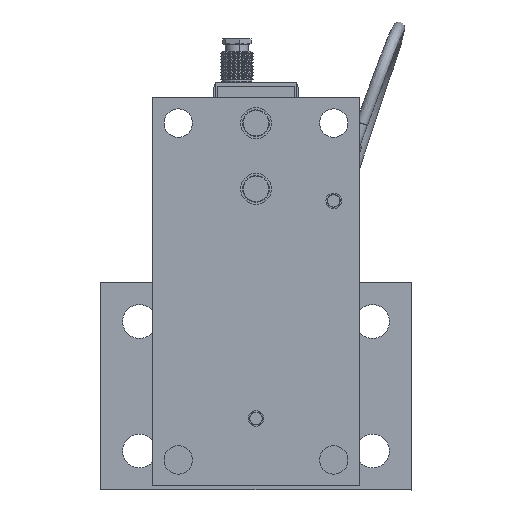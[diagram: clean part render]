
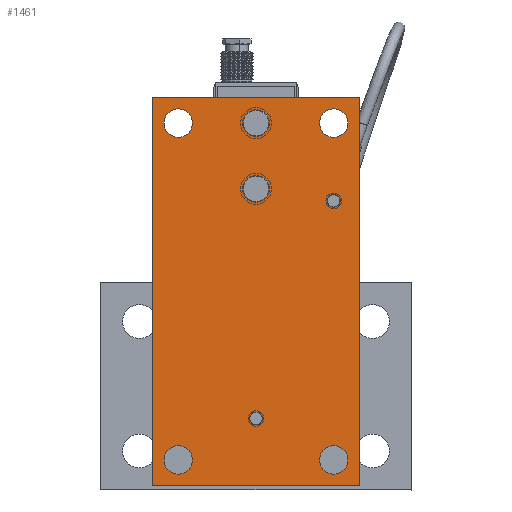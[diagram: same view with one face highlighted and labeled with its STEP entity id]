
A CAD part, front view. The second image highlights one B-rep face of the part: STEP entity #1461.
In plain terms, the highlighted planar face has unit normal (0, -1, 0) as drawn and (0, 0, -1) by its records, which use the part's own axes.
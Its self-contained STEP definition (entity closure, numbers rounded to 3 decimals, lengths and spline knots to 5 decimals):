
#1461=ADVANCED_FACE('0:3576',(#2551,#2552,#2553,#2554,#2555,#2556,#2557,#2558,#2559),#2560,.F.);
#2551=FACE_OUTER_BOUND('',#9432,.T.);
#2552=FACE_BOUND('',#9433,.T.);
#2553=FACE_BOUND('',#9434,.T.);
#2554=FACE_BOUND('',#9435,.T.);
#2555=FACE_BOUND('',#9436,.T.);
#2556=FACE_BOUND('',#9437,.T.);
#2557=FACE_BOUND('',#9438,.T.);
#2558=FACE_BOUND('',#9439,.T.);
#2559=FACE_BOUND('',#9440,.T.);
#2560=PLANE('',#9441);
#9432=EDGE_LOOP('',(#13151,#13152,#13153,#13154));
#9433=EDGE_LOOP('',(#13155,#13156));
#9434=EDGE_LOOP('',(#13157,#13158));
#9435=EDGE_LOOP('',(#13159,#13160));
#9436=EDGE_LOOP('',(#13161,#13162));
#9437=EDGE_LOOP('',(#13163,#13164));
#9438=EDGE_LOOP('',(#13165,#13166));
#9439=EDGE_LOOP('',(#13167,#13168));
#9440=EDGE_LOOP('',(#13169,#13170));
#9441=AXIS2_PLACEMENT_3D('',#13171,#13172,#13173);
#13151=ORIENTED_EDGE('',*,*,#14460,.T.);
#13152=ORIENTED_EDGE('',*,*,#14461,.T.);
#13153=ORIENTED_EDGE('',*,*,#14462,.T.);
#13154=ORIENTED_EDGE('',*,*,#14463,.T.);
#13155=ORIENTED_EDGE('',*,*,#14413,.T.);
#13156=ORIENTED_EDGE('',*,*,#14459,.T.);
#13157=ORIENTED_EDGE('',*,*,#14417,.T.);
#13158=ORIENTED_EDGE('',*,*,#14457,.T.);
#13159=ORIENTED_EDGE('',*,*,#14441,.T.);
#13160=ORIENTED_EDGE('',*,*,#14445,.T.);
#13161=ORIENTED_EDGE('',*,*,#14421,.T.);
#13162=ORIENTED_EDGE('',*,*,#14455,.T.);
#13163=ORIENTED_EDGE('',*,*,#14427,.F.);
#13164=ORIENTED_EDGE('',*,*,#14452,.F.);
#13165=ORIENTED_EDGE('',*,*,#14435,.F.);
#13166=ORIENTED_EDGE('',*,*,#14448,.F.);
#13167=ORIENTED_EDGE('',*,*,#14431,.F.);
#13168=ORIENTED_EDGE('',*,*,#14450,.F.);
#13169=ORIENTED_EDGE('',*,*,#14439,.F.);
#13170=ORIENTED_EDGE('',*,*,#14446,.F.);
#13171=CARTESIAN_POINT('',(0.0,0.0,0.0));
#13172=DIRECTION('',(0.0,0.0,1.0));
#13173=DIRECTION('',(1.0,0.0,0.0));
#14413=EDGE_CURVE('0:3638',#16313,#16310,#16314,.F.);
#14417=EDGE_CURVE('0:3632',#16321,#16318,#16322,.F.);
#14421=EDGE_CURVE('0:3626',#16329,#16326,#16330,.F.);
#14427=EDGE_CURVE('0:3620',#16339,#16335,#16341,.F.);
#14431=EDGE_CURVE('0:3614',#16347,#16343,#16349,.F.);
#14435=EDGE_CURVE('0:3608',#16355,#16351,#16357,.F.);
#14439=EDGE_CURVE('0:3602',#16363,#16359,#16365,.F.);
#14441=EDGE_CURVE('0:3596',#16369,#16366,#16370,.F.);
#14445=EDGE_CURVE('0:3596',#16366,#16369,#16375,.F.);
#14446=EDGE_CURVE('0:3602',#16359,#16363,#16376,.F.);
#14448=EDGE_CURVE('0:3608',#16351,#16355,#16378,.F.);
#14450=EDGE_CURVE('0:3614',#16343,#16347,#16380,.F.);
#14452=EDGE_CURVE('0:3620',#16335,#16339,#16382,.F.);
#14455=EDGE_CURVE('0:3626',#16326,#16329,#16385,.F.);
#14457=EDGE_CURVE('0:3632',#16318,#16321,#16387,.F.);
#14459=EDGE_CURVE('0:3638',#16310,#16313,#16389,.F.);
#14460=EDGE_CURVE('0:3641',#16390,#16391,#16392,.T.);
#14461=EDGE_CURVE('0:3644',#16391,#16393,#16394,.T.);
#14462=EDGE_CURVE('0:3647',#16393,#16395,#16396,.T.);
#14463=EDGE_CURVE('0:3650',#16395,#16390,#16397,.T.);
#16310=VERTEX_POINT('',#19930);
#16313=VERTEX_POINT('',#19934);
#16314=CIRCLE('',#19935,0.0051);
#16318=VERTEX_POINT('',#19940);
#16321=VERTEX_POINT('',#19944);
#16322=CIRCLE('',#19945,0.0051);
#16326=VERTEX_POINT('',#19950);
#16329=VERTEX_POINT('',#19954);
#16330=CIRCLE('',#19955,0.0025);
#16335=VERTEX_POINT('',#19961);
#16339=VERTEX_POINT('',#19966);
#16341=CIRCLE('',#19969,0.0055);
#16343=VERTEX_POINT('',#19971);
#16347=VERTEX_POINT('',#19976);
#16349=CIRCLE('',#19979,0.0055);
#16351=VERTEX_POINT('',#19981);
#16355=VERTEX_POINT('',#19986);
#16357=CIRCLE('',#19989,0.0055);
#16359=VERTEX_POINT('',#19991);
#16363=VERTEX_POINT('',#19996);
#16365=CIRCLE('',#19999,0.0055);
#16366=VERTEX_POINT('',#20000);
#16369=VERTEX_POINT('',#20004);
#16370=CIRCLE('',#20005,0.0025);
#16375=CIRCLE('',#20011,0.0025);
#16376=CIRCLE('',#20012,0.0055);
#16378=CIRCLE('',#20014,0.0055);
#16380=CIRCLE('',#20016,0.0055);
#16382=CIRCLE('',#20018,0.0055);
#16385=CIRCLE('',#20021,0.0025);
#16387=CIRCLE('',#20023,0.0051);
#16389=CIRCLE('',#20025,0.0051);
#16390=VERTEX_POINT('',#20026);
#16391=VERTEX_POINT('',#20027);
#16392=LINE('',#20028,#20029);
#16393=VERTEX_POINT('',#20030);
#16394=LINE('',#20031,#20032);
#16395=VERTEX_POINT('',#20033);
#16396=LINE('',#20034,#20035);
#16397=LINE('',#20036,#20037);
#19930=CARTESIAN_POINT('',(-0.0447,0.,0.0));
#19934=CARTESIAN_POINT('',(-0.0345,0.,0.0));
#19935=AXIS2_PLACEMENT_3D('',#22162,#22163,#22164);
#19940=CARTESIAN_POINT('',(-0.0701,0.,0.0));
#19944=CARTESIAN_POINT('',(-0.0599,0.,0.0));
#19945=AXIS2_PLACEMENT_3D('',#22170,#22171,#22172);
#19950=CARTESIAN_POINT('',(-0.0375,-0.03,0.0));
#19954=CARTESIAN_POINT('',(-0.0325,-0.03,0.0));
#19955=AXIS2_PLACEMENT_3D('',#22178,#22179,#22180);
#19961=CARTESIAN_POINT('',(0.0705,-0.03,0.0));
#19966=CARTESIAN_POINT('',(0.0595,-0.03,0.0));
#19969=AXIS2_PLACEMENT_3D('',#22190,#22191,#22192);
#19971=CARTESIAN_POINT('',(-0.0595,-0.03,0.0));
#19976=CARTESIAN_POINT('',(-0.0705,-0.03,0.0));
#19979=AXIS2_PLACEMENT_3D('',#22198,#22199,#22200);
#19981=CARTESIAN_POINT('',(-0.0595,0.03,0.0));
#19986=CARTESIAN_POINT('',(-0.0705,0.03,0.0));
#19989=AXIS2_PLACEMENT_3D('',#22206,#22207,#22208);
#19991=CARTESIAN_POINT('',(0.0705,0.03,0.0));
#19996=CARTESIAN_POINT('',(0.0595,0.03,0.0));
#19999=AXIS2_PLACEMENT_3D('',#22214,#22215,#22216);
#20000=CARTESIAN_POINT('',(0.0465,0.,0.0));
#20004=CARTESIAN_POINT('',(0.0515,0.,0.0));
#20005=AXIS2_PLACEMENT_3D('',#22218,#22219,#22220);
#20011=AXIS2_PLACEMENT_3D('',#22228,#22229,#22230);
#20012=AXIS2_PLACEMENT_3D('',#22231,#22232,#22233);
#20014=AXIS2_PLACEMENT_3D('',#22237,#22238,#22239);
#20016=AXIS2_PLACEMENT_3D('',#22243,#22244,#22245);
#20018=AXIS2_PLACEMENT_3D('',#22249,#22250,#22251);
#20021=AXIS2_PLACEMENT_3D('',#22258,#22259,#22260);
#20023=AXIS2_PLACEMENT_3D('',#22264,#22265,#22266);
#20025=AXIS2_PLACEMENT_3D('',#22270,#22271,#22272);
#20026=CARTESIAN_POINT('',(-0.075,-0.04,0.0));
#20027=CARTESIAN_POINT('',(-0.075,0.04,0.0));
#20028=CARTESIAN_POINT('',(-0.075,0.0,0.0));
#20029=VECTOR('',#22273,1.0);
#20030=CARTESIAN_POINT('',(0.075,0.04,0.0));
#20031=CARTESIAN_POINT('',(0.0,0.04,0.0));
#20032=VECTOR('',#22274,1.0);
#20033=CARTESIAN_POINT('',(0.075,-0.04,0.0));
#20034=CARTESIAN_POINT('',(0.075,0.0,0.0));
#20035=VECTOR('',#22275,1.0);
#20036=CARTESIAN_POINT('',(0.0,-0.04,0.0));
#20037=VECTOR('',#22276,1.0);
#22162=CARTESIAN_POINT('',(-0.0396,0.,0.0));
#22163=DIRECTION('',(0.0,0.0,-1.0));
#22164=DIRECTION('',(-1.0,0.0,0.0));
#22170=CARTESIAN_POINT('',(-0.065,0.,0.0));
#22171=DIRECTION('',(0.0,0.0,-1.0));
#22172=DIRECTION('',(-1.0,0.0,0.0));
#22178=CARTESIAN_POINT('',(-0.035,-0.03,0.0));
#22179=DIRECTION('',(0.0,0.0,-1.0));
#22180=DIRECTION('',(-1.0,0.0,0.0));
#22190=CARTESIAN_POINT('',(0.065,-0.03,0.0));
#22191=DIRECTION('',(0.0,0.0,1.0));
#22192=DIRECTION('',(1.0,0.0,0.0));
#22198=CARTESIAN_POINT('',(-0.065,-0.03,0.0));
#22199=DIRECTION('',(0.0,0.0,1.0));
#22200=DIRECTION('',(1.0,0.0,0.0));
#22206=CARTESIAN_POINT('',(-0.065,0.03,0.0));
#22207=DIRECTION('',(0.0,0.0,1.0));
#22208=DIRECTION('',(1.0,0.0,0.0));
#22214=CARTESIAN_POINT('',(0.065,0.03,0.0));
#22215=DIRECTION('',(0.0,0.0,1.0));
#22216=DIRECTION('',(1.0,0.0,0.0));
#22218=CARTESIAN_POINT('',(0.049,0.,0.0));
#22219=DIRECTION('',(0.0,0.0,-1.0));
#22220=DIRECTION('',(-1.0,0.0,0.0));
#22228=CARTESIAN_POINT('',(0.049,0.,0.0));
#22229=DIRECTION('',(0.0,0.0,-1.0));
#22230=DIRECTION('',(-1.0,0.0,0.0));
#22231=CARTESIAN_POINT('',(0.065,0.03,0.0));
#22232=DIRECTION('',(0.0,0.0,1.0));
#22233=DIRECTION('',(1.0,0.0,0.0));
#22237=CARTESIAN_POINT('',(-0.065,0.03,0.0));
#22238=DIRECTION('',(0.0,0.0,1.0));
#22239=DIRECTION('',(1.0,0.0,0.0));
#22243=CARTESIAN_POINT('',(-0.065,-0.03,0.0));
#22244=DIRECTION('',(0.0,0.0,1.0));
#22245=DIRECTION('',(1.0,0.0,0.0));
#22249=CARTESIAN_POINT('',(0.065,-0.03,0.0));
#22250=DIRECTION('',(0.0,0.0,1.0));
#22251=DIRECTION('',(1.0,0.0,0.0));
#22258=CARTESIAN_POINT('',(-0.035,-0.03,0.0));
#22259=DIRECTION('',(0.0,0.0,-1.0));
#22260=DIRECTION('',(-1.0,0.0,0.0));
#22264=CARTESIAN_POINT('',(-0.065,0.,0.0));
#22265=DIRECTION('',(0.0,0.0,-1.0));
#22266=DIRECTION('',(-1.0,0.0,0.0));
#22270=CARTESIAN_POINT('',(-0.0396,0.,0.0));
#22271=DIRECTION('',(0.0,0.0,-1.0));
#22272=DIRECTION('',(-1.0,0.0,0.0));
#22273=DIRECTION('',(0.0,1.0,-0.0));
#22274=DIRECTION('',(1.0,0.0,0.0));
#22275=DIRECTION('',(0.0,-1.0,0.0));
#22276=DIRECTION('',(-1.0,0.0,0.0));
